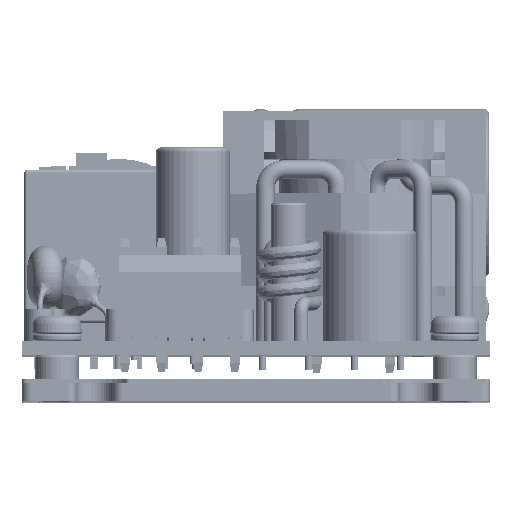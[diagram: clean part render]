
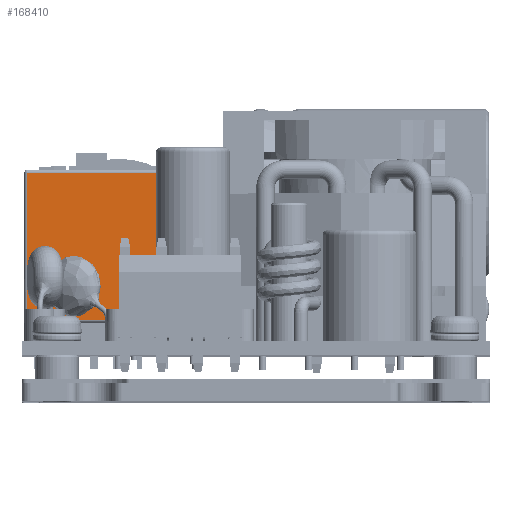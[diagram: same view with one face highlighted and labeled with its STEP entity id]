
A CAD part, top view. The second image highlights one B-rep face of the part: STEP entity #168410.
In plain terms, the highlighted planar face has unit normal (0, 0, 1).
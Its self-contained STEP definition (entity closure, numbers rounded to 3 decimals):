
#6007 = EDGE_LOOP ( 'NONE', ( #22579, #233176, #175443, #68669 ) ) ;
#20338 = DIRECTION ( 'NONE',  ( -1., 0., 0. ) ) ;
#22579 = ORIENTED_EDGE ( 'NONE', *, *, #127953, .T. ) ;
#22777 = DIRECTION ( 'NONE',  ( 0., 1., 0. ) ) ;
#25084 = VERTEX_POINT ( 'NONE', #119714 ) ;
#56186 = CARTESIAN_POINT ( 'NONE',  ( -24.85, -4.053, 4.383 ) ) ;
#57903 = EDGE_CURVE ( 'NONE', #117171, #25084, #112452, .T. ) ;
#60923 = CARTESIAN_POINT ( 'NONE',  ( -25.15, -4.053, 4.383 ) ) ;
#68669 = ORIENTED_EDGE ( 'NONE', *, *, #174855, .T. ) ;
#69995 = DIRECTION ( 'NONE',  ( 0., 0., -1. ) ) ;
#82537 = LINE ( 'NONE', #156519, #196717 ) ;
#83630 = AXIS2_PLACEMENT_3D ( 'NONE', #236074, #69995, #143983 ) ;
#88204 = FACE_OUTER_BOUND ( 'NONE', #6007, .T. ) ;
#98581 = CARTESIAN_POINT ( 'NONE',  ( -5.05, -4.053, 4.383 ) ) ;
#100883 = EDGE_CURVE ( 'NONE', #207198, #117171, #114876, .T. ) ;
#112452 = LINE ( 'NONE', #186375, #143066 ) ;
#114876 = LINE ( 'NONE', #188811, #209041 ) ;
#117171 = VERTEX_POINT ( 'NONE', #203719 ) ;
#119714 = CARTESIAN_POINT ( 'NONE',  ( -24.85, 11.947, 4.383 ) ) ;
#127953 = EDGE_CURVE ( 'NONE', #217920, #207198, #227012, .T. ) ;
#134904 = DIRECTION ( 'NONE',  ( 1., 0., 0. ) ) ;
#141422 = VECTOR ( 'NONE', #134904, 1000. ) ;
#143066 = VECTOR ( 'NONE', #20338, 1000. ) ;
#143983 = DIRECTION ( 'NONE',  ( -1., 0., 0. ) ) ;
#156519 = CARTESIAN_POINT ( 'NONE',  ( -24.85, 12.247, 4.383 ) ) ;
#162185 = PLANE ( 'NONE',  #83630 ) ;
#168410 = ADVANCED_FACE ( 'NONE', ( #88204 ), #162185, .F. ) ;
#174855 = EDGE_CURVE ( 'NONE', #25084, #217920, #82537, .T. ) ;
#175443 = ORIENTED_EDGE ( 'NONE', *, *, #57903, .T. ) ;
#186375 = CARTESIAN_POINT ( 'NONE',  ( -25.15, 11.947, 4.383 ) ) ;
#188811 = CARTESIAN_POINT ( 'NONE',  ( -5.05, 12.247, 4.383 ) ) ;
#196717 = VECTOR ( 'NONE', #230451, 1000. ) ;
#203719 = CARTESIAN_POINT ( 'NONE',  ( -5.05, 11.947, 4.383 ) ) ;
#207198 = VERTEX_POINT ( 'NONE', #98581 ) ;
#209041 = VECTOR ( 'NONE', #22777, 1000. ) ;
#217920 = VERTEX_POINT ( 'NONE', #56186 ) ;
#227012 = LINE ( 'NONE', #60923, #141422 ) ;
#230451 = DIRECTION ( 'NONE',  ( 0., -1., 0. ) ) ;
#233176 = ORIENTED_EDGE ( 'NONE', *, *, #100883, .T. ) ;
#236074 = CARTESIAN_POINT ( 'NONE',  ( -25.15, 12.247, 4.383 ) ) ;
